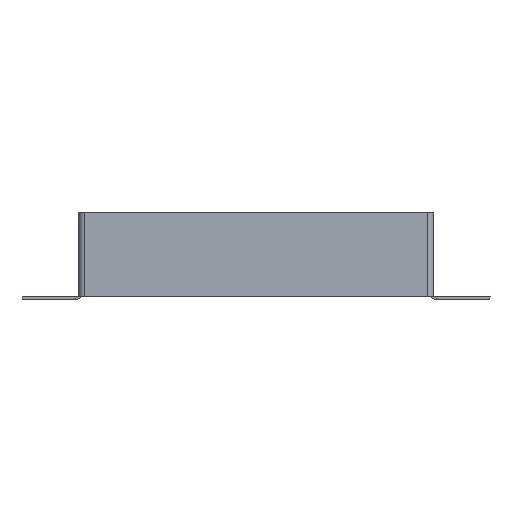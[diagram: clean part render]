
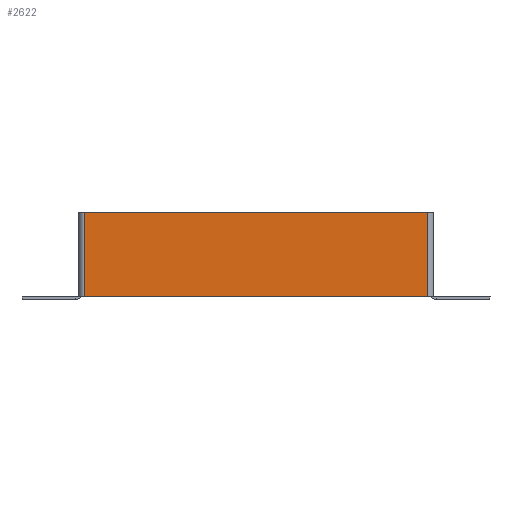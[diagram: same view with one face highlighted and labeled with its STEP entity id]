
A CAD part, front view. The second image highlights one B-rep face of the part: STEP entity #2622.
In plain terms, the highlighted planar face has unit normal (0, -1, 0).
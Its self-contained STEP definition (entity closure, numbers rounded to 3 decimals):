
#44 = VECTOR ( 'NONE', #703, 1000. ) ;
#79 = EDGE_CURVE ( 'NONE', #5745, #8382, #5854, .T. ) ;
#365 = ORIENTED_EDGE ( 'NONE', *, *, #3137, .F. ) ;
#590 = VECTOR ( 'NONE', #6952, 1000. ) ;
#703 = DIRECTION ( 'NONE',  ( 0., 0., 1. ) ) ;
#1254 = VERTEX_POINT ( 'NONE', #2667 ) ;
#1569 = EDGE_LOOP ( 'NONE', ( #8177, #365, #8777, #4304 ) ) ;
#1871 = DIRECTION ( 'NONE',  ( 0., 1., 0. ) ) ;
#2187 = CARTESIAN_POINT ( 'NONE',  ( -118., -2., 0. ) ) ;
#2622 = ADVANCED_FACE ( 'NONE', ( #7701 ), #8084, .F. ) ;
#2667 = CARTESIAN_POINT ( 'NONE',  ( 118., -2., -58. ) ) ;
#3137 = EDGE_CURVE ( 'NONE', #1254, #3789, #6472, .T. ) ;
#3353 = DIRECTION ( 'NONE',  ( 0., 0., -1. ) ) ;
#3789 = VERTEX_POINT ( 'NONE', #6586 ) ;
#4101 = CARTESIAN_POINT ( 'NONE',  ( -118., -2., 0. ) ) ;
#4185 = LINE ( 'NONE', #7765, #44 ) ;
#4204 = CARTESIAN_POINT ( 'NONE',  ( -120., -2., 0. ) ) ;
#4304 = ORIENTED_EDGE ( 'NONE', *, *, #79, .F. ) ;
#4803 = EDGE_CURVE ( 'NONE', #1254, #8382, #4185, .T. ) ;
#4898 = AXIS2_PLACEMENT_3D ( 'NONE', #8231, #1871, #5460 ) ;
#5178 = LINE ( 'NONE', #4101, #8698 ) ;
#5221 = EDGE_CURVE ( 'NONE', #5745, #3789, #5178, .T. ) ;
#5460 = DIRECTION ( 'NONE',  ( 0., 0., 1. ) ) ;
#5485 = VECTOR ( 'NONE', #7039, 1000. ) ;
#5745 = VERTEX_POINT ( 'NONE', #2187 ) ;
#5854 = LINE ( 'NONE', #4204, #590 ) ;
#6436 = CARTESIAN_POINT ( 'NONE',  ( -120., -2., -58. ) ) ;
#6472 = LINE ( 'NONE', #6436, #5485 ) ;
#6586 = CARTESIAN_POINT ( 'NONE',  ( -118., -2., -58. ) ) ;
#6952 = DIRECTION ( 'NONE',  ( 1., 0., 0. ) ) ;
#6975 = CARTESIAN_POINT ( 'NONE',  ( 118., -2., 0. ) ) ;
#7039 = DIRECTION ( 'NONE',  ( -1., 0., 0. ) ) ;
#7701 = FACE_OUTER_BOUND ( 'NONE', #1569, .T. ) ;
#7765 = CARTESIAN_POINT ( 'NONE',  ( 118., -2., -58. ) ) ;
#8084 = PLANE ( 'NONE',  #4898 ) ;
#8177 = ORIENTED_EDGE ( 'NONE', *, *, #5221, .T. ) ;
#8231 = CARTESIAN_POINT ( 'NONE',  ( 0., -2., 0. ) ) ;
#8382 = VERTEX_POINT ( 'NONE', #6975 ) ;
#8698 = VECTOR ( 'NONE', #3353, 1000. ) ;
#8777 = ORIENTED_EDGE ( 'NONE', *, *, #4803, .T. ) ;
